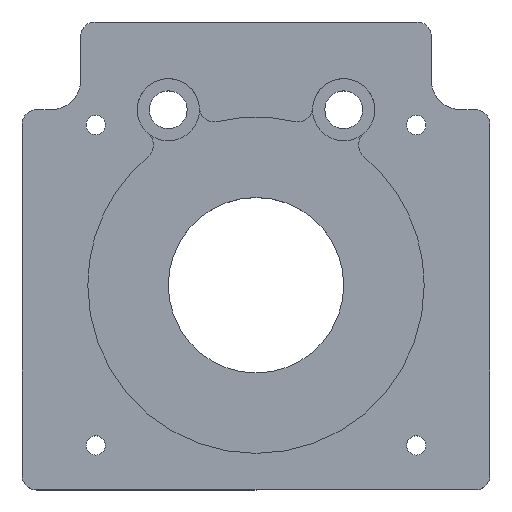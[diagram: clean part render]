
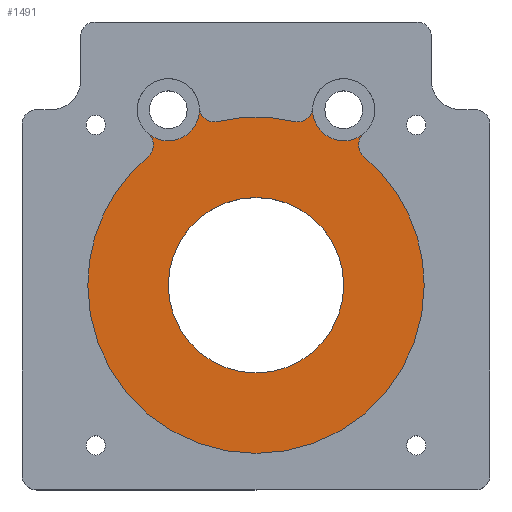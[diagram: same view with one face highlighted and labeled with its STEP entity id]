
A CAD part, top view. The second image highlights one B-rep face of the part: STEP entity #1491.
In plain terms, the highlighted planar face has unit normal (0, 0, 1).
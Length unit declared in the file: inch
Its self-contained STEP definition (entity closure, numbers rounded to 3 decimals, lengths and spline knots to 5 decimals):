
#1 = CARTESIAN_POINT ( 'NONE',  ( 0., -0.25, 0.4 ) ) ;
#7 = VERTEX_POINT ( 'NONE', #502 ) ;
#17 = CARTESIAN_POINT ( 'NONE',  ( -0.92106, 0.85431, 0.4 ) ) ;
#53 = EDGE_CURVE ( 'NONE', #163, #62, #856, .T. ) ;
#61 = DIRECTION ( 'NONE',  ( 1., 0., 0. ) ) ;
#62 = VERTEX_POINT ( 'NONE', #866 ) ;
#64 = DIRECTION ( 'NONE',  ( 0., 0., -1. ) ) ;
#87 = CIRCLE ( 'NONE', #1290, 0.125 ) ;
#92 = EDGE_CURVE ( 'NONE', #675, #787, #696, .T. ) ;
#106 = DIRECTION ( 'NONE',  ( 0., 0., -1. ) ) ;
#109 = EDGE_LOOP ( 'NONE', ( #461, #1437 ) ) ;
#143 = ORIENTED_EDGE ( 'NONE', *, *, #657, .T. ) ;
#163 = VERTEX_POINT ( 'NONE', #1627 ) ;
#190 = ORIENTED_EDGE ( 'NONE', *, *, #843, .T. ) ;
#191 = DIRECTION ( 'NONE',  ( 1., 0., 0. ) ) ;
#194 = EDGE_LOOP ( 'NONE', ( #1355, #1595, #190, #328, #322, #1022, #766, #143, #1764, #863, #1563, #358 ) ) ;
#196 = EDGE_CURVE ( 'NONE', #962, #1479, #346, .T. ) ;
#199 = AXIS2_PLACEMENT_3D ( 'NONE', #922, #795, #1625 ) ;
#213 = CARTESIAN_POINT ( 'NONE',  ( 0.75, -0.25, 0.4 ) ) ;
#219 = CIRCLE ( 'NONE', #974, 1.438 ) ;
#233 = FACE_BOUND ( 'NONE', #109, .T. ) ;
#238 = DIRECTION ( 'NONE',  ( 1., 0., 0. ) ) ;
#241 = EDGE_CURVE ( 'NONE', #787, #1486, #219, .T. ) ;
#244 = FACE_OUTER_BOUND ( 'NONE', #194, .T. ) ;
#258 = CARTESIAN_POINT ( 'NONE',  ( 0.33081, 1.14943, 0.4 ) ) ;
#305 = DIRECTION ( 'NONE',  ( 0., 0., -1. ) ) ;
#306 = VERTEX_POINT ( 'NONE', #716 ) ;
#322 = ORIENTED_EDGE ( 'NONE', *, *, #1432, .T. ) ;
#328 = ORIENTED_EDGE ( 'NONE', *, *, #957, .T. ) ;
#344 = CARTESIAN_POINT ( 'NONE',  ( 0., -0.25, 0.4 ) ) ;
#346 = CIRCLE ( 'NONE', #522, 0.266 ) ;
#358 = ORIENTED_EDGE ( 'NONE', *, *, #1566, .T. ) ;
#374 = DIRECTION ( 'NONE',  ( 1., 0., 0. ) ) ;
#378 = DIRECTION ( 'NONE',  ( 0., 0., 1. ) ) ;
#391 = DIRECTION ( 'NONE',  ( 0., 0., 1. ) ) ;
#393 = DIRECTION ( 'NONE',  ( 0., 0., 1. ) ) ;
#413 = CIRCLE ( 'NONE', #1781, 0.125 ) ;
#416 = CARTESIAN_POINT ( 'NONE',  ( 0., -0.25, 0.4 ) ) ;
#436 = AXIS2_PLACEMENT_3D ( 'NONE', #1107, #1114, #444 ) ;
#444 = DIRECTION ( 'NONE',  ( 1., 0., 0. ) ) ;
#457 = EDGE_CURVE ( 'NONE', #1486, #7, #1314, .T. ) ;
#459 = DIRECTION ( 'NONE',  ( 1., 0., 0. ) ) ;
#461 = ORIENTED_EDGE ( 'NONE', *, *, #495, .T. ) ;
#463 = AXIS2_PLACEMENT_3D ( 'NONE', #1511, #393, #803 ) ;
#487 = VERTEX_POINT ( 'NONE', #258 ) ;
#495 = EDGE_CURVE ( 'NONE', #772, #1583, #1055, .T. ) ;
#502 = CARTESIAN_POINT ( 'NONE',  ( 0.92106, 0.85431, 0.4 ) ) ;
#503 = CARTESIAN_POINT ( 'NONE',  ( -0.92084, 1.04611, 0.4 ) ) ;
#506 = CARTESIAN_POINT ( 'NONE',  ( 0., -0.25, 0.4 ) ) ;
#522 = AXIS2_PLACEMENT_3D ( 'NONE', #1202, #1636, #1754 ) ;
#526 = CARTESIAN_POINT ( 'NONE',  ( 1.438, -0.25, 0.4 ) ) ;
#530 = DIRECTION ( 'NONE',  ( 1., 0., 0. ) ) ;
#547 = AXIS2_PLACEMENT_3D ( 'NONE', #781, #1096, #961 ) ;
#588 = DIRECTION ( 'NONE',  ( 0., 0., -1. ) ) ;
#604 = CIRCLE ( 'NONE', #1753, 1.438 ) ;
#613 = VERTEX_POINT ( 'NONE', #726 ) ;
#628 = CARTESIAN_POINT ( 'NONE',  ( 0.75, 1.25, 0.4 ) ) ;
#657 = EDGE_CURVE ( 'NONE', #1479, #675, #1693, .T. ) ;
#660 = AXIS2_PLACEMENT_3D ( 'NONE', #1407, #588, #459 ) ;
#675 = VERTEX_POINT ( 'NONE', #17 ) ;
#696 = CIRCLE ( 'NONE', #915, 1.438 ) ;
#697 = DIRECTION ( 'NONE',  ( 1., 0., 0. ) ) ;
#716 = CARTESIAN_POINT ( 'NONE',  ( -0.33081, 1.14943, 0.4 ) ) ;
#719 = DIRECTION ( 'NONE',  ( 1., 0., 0. ) ) ;
#726 = CARTESIAN_POINT ( 'NONE',  ( 0.48439, 1.26434, 0.4 ) ) ;
#766 = ORIENTED_EDGE ( 'NONE', *, *, #196, .T. ) ;
#772 = VERTEX_POINT ( 'NONE', #213 ) ;
#781 = CARTESIAN_POINT ( 'NONE',  ( 0., -0.25, 0.4 ) ) ;
#787 = VERTEX_POINT ( 'NONE', #1157 ) ;
#795 = DIRECTION ( 'NONE',  ( 0., 0., -1. ) ) ;
#803 = DIRECTION ( 'NONE',  ( 1., 0., 0. ) ) ;
#843 = EDGE_CURVE ( 'NONE', #613, #487, #87, .T. ) ;
#856 = CIRCLE ( 'NONE', #660, 0.266 ) ;
#863 = ORIENTED_EDGE ( 'NONE', *, *, #241, .T. ) ;
#866 = CARTESIAN_POINT ( 'NONE',  ( 0.484, 1.25, 0.4 ) ) ;
#870 = DIRECTION ( 'NONE',  ( 0., 0., -1. ) ) ;
#871 = EDGE_CURVE ( 'NONE', #62, #613, #1506, .T. ) ;
#915 = AXIS2_PLACEMENT_3D ( 'NONE', #344, #1480, #61 ) ;
#916 = CIRCLE ( 'NONE', #1169, 0.75 ) ;
#922 = CARTESIAN_POINT ( 'NONE',  ( -0.35957, 1.27108, 0.4 ) ) ;
#957 = EDGE_CURVE ( 'NONE', #487, #306, #604, .T. ) ;
#959 = DIRECTION ( 'NONE',  ( 1., 0., 0. ) ) ;
#961 = DIRECTION ( 'NONE',  ( 1., 0., 0. ) ) ;
#962 = VERTEX_POINT ( 'NONE', #1628 ) ;
#974 = AXIS2_PLACEMENT_3D ( 'NONE', #506, #378, #238 ) ;
#978 = CIRCLE ( 'NONE', #199, 0.125 ) ;
#1009 = CARTESIAN_POINT ( 'NONE',  ( -0.48439, 1.26434, 0.4 ) ) ;
#1022 = ORIENTED_EDGE ( 'NONE', *, *, #1046, .T. ) ;
#1046 = EDGE_CURVE ( 'NONE', #1760, #962, #1470, .T. ) ;
#1055 = CIRCLE ( 'NONE', #547, 0.75 ) ;
#1096 = DIRECTION ( 'NONE',  ( 0., 0., -1. ) ) ;
#1107 = CARTESIAN_POINT ( 'NONE',  ( -1.00112, 0.9503, 0.4 ) ) ;
#1114 = DIRECTION ( 'NONE',  ( 0., 0., -1. ) ) ;
#1157 = CARTESIAN_POINT ( 'NONE',  ( -1.438, -0.25, 0.4 ) ) ;
#1169 = AXIS2_PLACEMENT_3D ( 'NONE', #1, #1652, #719 ) ;
#1185 = PLANE ( 'NONE',  #1405 ) ;
#1202 = CARTESIAN_POINT ( 'NONE',  ( -0.75, 1.25, 0.4 ) ) ;
#1290 = AXIS2_PLACEMENT_3D ( 'NONE', #1580, #870, #1726 ) ;
#1314 = CIRCLE ( 'NONE', #463, 1.438 ) ;
#1330 = CARTESIAN_POINT ( 'NONE',  ( -0.75, 1.25, 0.4 ) ) ;
#1344 = DIRECTION ( 'NONE',  ( 0., 0., 1. ) ) ;
#1355 = ORIENTED_EDGE ( 'NONE', *, *, #53, .T. ) ;
#1375 = CARTESIAN_POINT ( 'NONE',  ( 1.00112, 0.9503, 0.4 ) ) ;
#1405 = AXIS2_PLACEMENT_3D ( 'NONE', #1729, #1344, #374 ) ;
#1407 = CARTESIAN_POINT ( 'NONE',  ( 0.75, 1.25, 0.4 ) ) ;
#1432 = EDGE_CURVE ( 'NONE', #306, #1760, #978, .T. ) ;
#1437 = ORIENTED_EDGE ( 'NONE', *, *, #1553, .T. ) ;
#1470 = CIRCLE ( 'NONE', #1673, 0.266 ) ;
#1479 = VERTEX_POINT ( 'NONE', #503 ) ;
#1480 = DIRECTION ( 'NONE',  ( 0., 0., 1. ) ) ;
#1486 = VERTEX_POINT ( 'NONE', #526 ) ;
#1491 = ADVANCED_FACE ( 'NONE', ( #233, #244 ), #1185, .T. ) ;
#1506 = CIRCLE ( 'NONE', #1780, 0.266 ) ;
#1511 = CARTESIAN_POINT ( 'NONE',  ( 0., -0.25, 0.4 ) ) ;
#1535 = CARTESIAN_POINT ( 'NONE',  ( -0.75, -0.25, 0.4 ) ) ;
#1553 = EDGE_CURVE ( 'NONE', #1583, #772, #916, .T. ) ;
#1563 = ORIENTED_EDGE ( 'NONE', *, *, #457, .T. ) ;
#1566 = EDGE_CURVE ( 'NONE', #7, #163, #413, .T. ) ;
#1580 = CARTESIAN_POINT ( 'NONE',  ( 0.35957, 1.27108, 0.4 ) ) ;
#1583 = VERTEX_POINT ( 'NONE', #1535 ) ;
#1595 = ORIENTED_EDGE ( 'NONE', *, *, #871, .T. ) ;
#1625 = DIRECTION ( 'NONE',  ( 1., 0., 0. ) ) ;
#1627 = CARTESIAN_POINT ( 'NONE',  ( 0.92084, 1.04611, 0.4 ) ) ;
#1628 = CARTESIAN_POINT ( 'NONE',  ( -0.484, 1.25, 0.4 ) ) ;
#1636 = DIRECTION ( 'NONE',  ( 0., 0., -1. ) ) ;
#1652 = DIRECTION ( 'NONE',  ( 0., 0., -1. ) ) ;
#1673 = AXIS2_PLACEMENT_3D ( 'NONE', #1330, #106, #530 ) ;
#1693 = CIRCLE ( 'NONE', #436, 0.125 ) ;
#1726 = DIRECTION ( 'NONE',  ( 1., 0., 0. ) ) ;
#1729 = CARTESIAN_POINT ( 'NONE',  ( 0., -0.25, 0.4 ) ) ;
#1753 = AXIS2_PLACEMENT_3D ( 'NONE', #416, #391, #959 ) ;
#1754 = DIRECTION ( 'NONE',  ( 1., 0., 0. ) ) ;
#1760 = VERTEX_POINT ( 'NONE', #1009 ) ;
#1764 = ORIENTED_EDGE ( 'NONE', *, *, #92, .T. ) ;
#1780 = AXIS2_PLACEMENT_3D ( 'NONE', #628, #64, #191 ) ;
#1781 = AXIS2_PLACEMENT_3D ( 'NONE', #1375, #305, #697 ) ;
